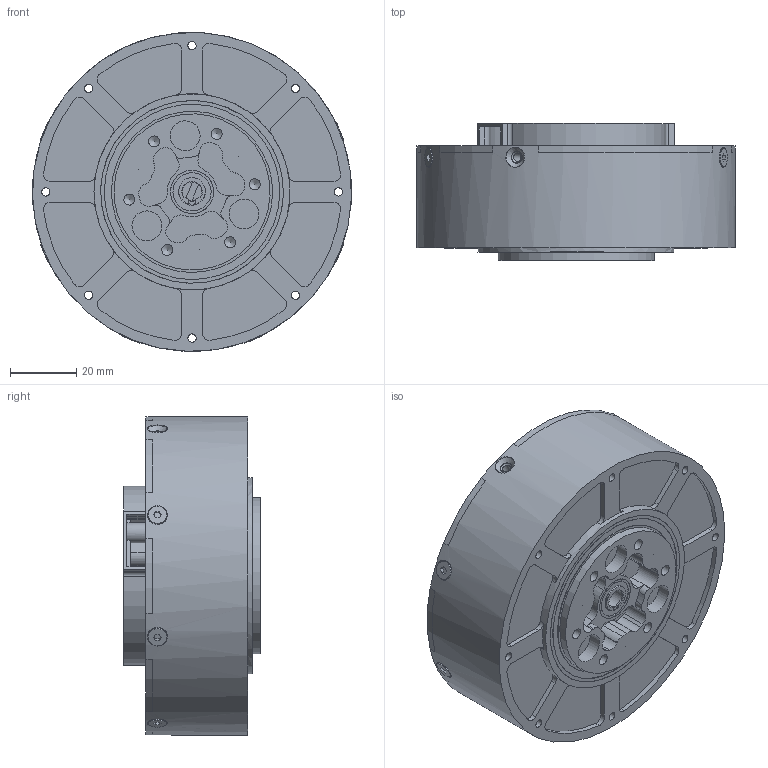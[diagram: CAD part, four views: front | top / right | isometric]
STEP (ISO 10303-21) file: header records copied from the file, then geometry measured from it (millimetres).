
FILE_DESCRIPTION (( 'STEP AP203' ), '1' );
FILE_NAME ('RMD-X8-P9-32-R.STEP', '2026-01-27T05:06:02', ( '' ), ( '' ), 'SwSTEP 2.0', 'SolidWorks 2020', '' );
FILE_SCHEMA (( 'CONFIG_CONTROL_DESIGN' ));
Length unit declared in the file: millimetre
Products named in the file (8): XMT.109.013_Default<偌樓馱>; RMD-X8-P9-32-R; 8MT.034.031_Default<偌樓馱>; 686-2Z P5  D6xD13x5_Default<偌樓馱>; 6709-2Z P5  D45xD55x6_Default<偌樓馱>; TBP06-6; 内六角沉头螺丝 M3_M3x6  12.9级黑; 8MT.013.101-V1
Assembly tree (12 placements, depth 2):
  RMD-X8-P9-32-R
    XMT.109.013_Default<偌樓馱>
    6709-2Z P5  D45xD55x6_Default<偌樓馱>
    686-2Z P5  D6xD13x5_Default<偌樓馱>
    8MT.034.031_Default<偌樓馱>
    8MT.013.101-V1
    内六角沉头螺丝 M3_M3x6  12.9级黑  x6
    TBP06-6
Bounding box: 95.95 x 41.2 x 95.89 mm (x, y, z)
Volume: 53754.9 mm3; surface area: 67514.5 mm2
Topology: 12 solids, 12 shells, 746 faces, 2067 edges, 1377 vertices
Faces by surface type: cylinder 395, plane 318, cone 26, bspline 7
Full cylindrical faces by diameter (mm): 1.6 x4, 2 x1, 2.5 x23, 3 x6, 3.3 x9, 3.5 x4, 4 x3, 5.54 x6, 6 x9, 8 x5, 9 x3, 11 x1, 11.5 x2, 13 x2, 45 x2, 47 x1, 48.5 x2, 51 x1, 52.8 x2, 55 x2, 58.5 x1, 59 x1, 60.5 x1, 63 x1, 96 x1
Entity records: 28932 total; most frequent: CARTESIAN_POINT 9942, DIRECTION 3998, ORIENTED_EDGE 3572, EDGE_CURVE 1786, AXIS2_PLACEMENT_3D 1559, VERTEX_POINT 1249, EDGE_LOOP 903, VECTOR 880
